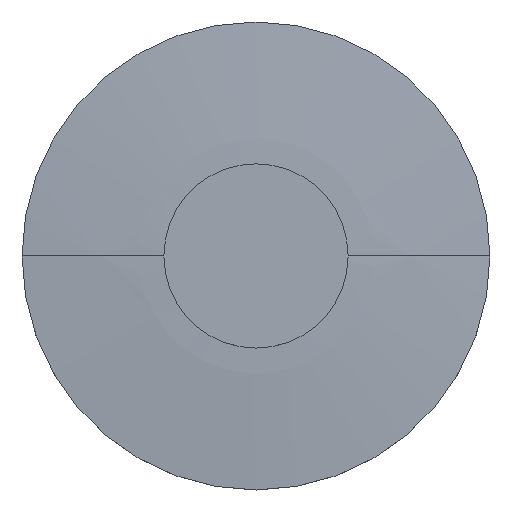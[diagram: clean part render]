
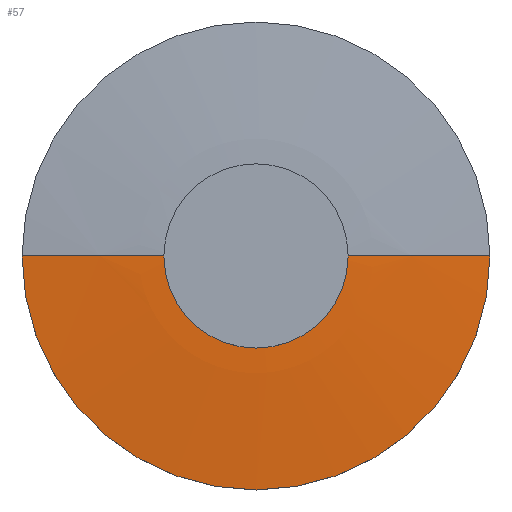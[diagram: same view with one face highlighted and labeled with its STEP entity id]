
A CAD part, top view. The second image highlights one B-rep face of the part: STEP entity #57.
In plain terms, the highlighted spherical face has radius 282.805 mm.
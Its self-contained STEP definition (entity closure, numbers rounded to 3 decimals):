
#57=ADVANCED_FACE('',(#71),#72,.T.);
#71=FACE_OUTER_BOUND('',#91,.T.);
#72=SPHERICAL_SURFACE('',#92,282.805);
#91=EDGE_LOOP('',(#124,#125,#126));
#92=AXIS2_PLACEMENT_3D('',#127,#128,#129);
#124=ORIENTED_EDGE('',*,*,#173,.T.);
#125=ORIENTED_EDGE('',*,*,#174,.T.);
#126=ORIENTED_EDGE('',*,*,#175,.T.);
#127=CARTESIAN_POINT('',(0.0,0.0,-273.805));
#128=DIRECTION('',(0.0,0.0,1.0));
#129=DIRECTION('',(1.0,0.0,0.0));
#173=EDGE_CURVE('',#189,#194,#195,.T.);
#174=EDGE_CURVE('',#194,#191,#196,.T.);
#175=EDGE_CURVE('',#191,#189,#197,.T.);
#189=VERTEX_POINT('',#215);
#191=VERTEX_POINT('',#218);
#194=VERTEX_POINT('',#222);
#195=CIRCLE('',#223,282.805);
#196=CIRCLE('',#224,282.805);
#197=CIRCLE('',#225,25.4);
#215=CARTESIAN_POINT('',(25.4,0.,7.857));
#218=CARTESIAN_POINT('',(-25.4,0.,7.857));
#222=CARTESIAN_POINT('',(0.0,0.0,9.0));
#223=AXIS2_PLACEMENT_3D('',#253,#254,#255);
#224=AXIS2_PLACEMENT_3D('',#256,#257,#258);
#225=AXIS2_PLACEMENT_3D('',#259,#260,#261);
#253=CARTESIAN_POINT('',(0.0,0.0,-273.805));
#254=DIRECTION('',(0.,-1.0,0.0));
#255=DIRECTION('',(0.0,0.0,1.0));
#256=CARTESIAN_POINT('',(0.0,0.0,-273.805));
#257=DIRECTION('',(0.,-1.0,0.0));
#258=DIRECTION('',(0.0,0.0,1.0));
#259=CARTESIAN_POINT('',(0.0,0.0,7.857));
#260=DIRECTION('',(0.0,0.0,1.0));
#261=DIRECTION('',(1.0,0.0,0.0));
